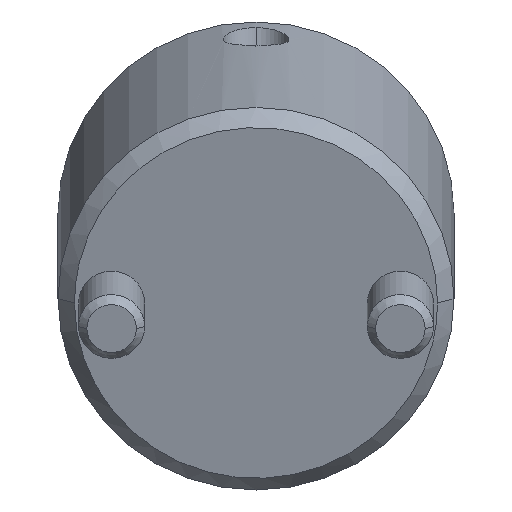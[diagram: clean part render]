
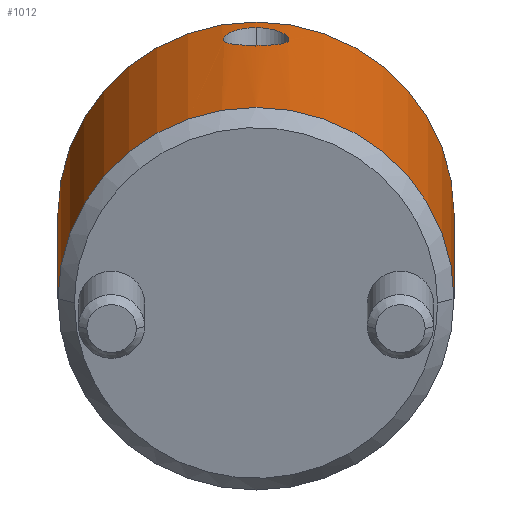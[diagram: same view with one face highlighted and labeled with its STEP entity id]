
A CAD part, front view. The second image highlights one B-rep face of the part: STEP entity #1012.
In plain terms, the highlighted cylindrical face has radius 12 mm (diameter 24 mm), a partial arc.
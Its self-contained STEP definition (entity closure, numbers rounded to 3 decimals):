
#778=CARTESIAN_POINT('Vertex',(0.,12.,1.)) ;
#781=CARTESIAN_POINT('Axis2P3D Location',(0.,0.,1.)) ;
#785=CARTESIAN_POINT('Vertex',(0.,-12.,1.)) ;
#925=CARTESIAN_POINT('Axis2P3D Location',(0.,0.,-1.1)) ;
#930=CARTESIAN_POINT('Line Origine',(0.,12.,-1.1)) ;
#934=CARTESIAN_POINT('Vertex',(0.,12.,21.)) ;
#937=CARTESIAN_POINT('Axis2P3D Location',(0.,0.,21.)) ;
#941=CARTESIAN_POINT('Vertex',(0.,-12.,21.)) ;
#944=CARTESIAN_POINT('Line Origine',(0.,-12.,-1.1)) ;
#956=CARTESIAN_POINT('Control Point',(12.,0.,19.674)) ;
#957=CARTESIAN_POINT('Control Point',(12.,0.342,19.674)) ;
#958=CARTESIAN_POINT('Control Point',(11.988,0.675,19.596)) ;
#959=CARTESIAN_POINT('Control Point',(11.964,0.993,19.44)) ;
#960=CARTESIAN_POINT('Control Point',(11.923,1.377,19.137)) ;
#961=CARTESIAN_POINT('Control Point',(11.885,1.661,18.739)) ;
#962=CARTESIAN_POINT('Control Point',(11.874,1.735,18.615)) ;
#963=CARTESIAN_POINT('Control Point',(11.855,1.861,18.357)) ;
#964=CARTESIAN_POINT('Control Point',(11.842,1.943,18.08)) ;
#965=CARTESIAN_POINT('Control Point',(11.837,1.974,17.937)) ;
#966=CARTESIAN_POINT('Control Point',(11.831,2.01,17.654)) ;
#967=CARTESIAN_POINT('Control Point',(11.832,1.999,17.37)) ;
#968=CARTESIAN_POINT('Control Point',(11.835,1.981,17.229)) ;
#969=CARTESIAN_POINT('Control Point',(11.845,1.924,16.953)) ;
#970=CARTESIAN_POINT('Control Point',(11.861,1.822,16.694)) ;
#971=CARTESIAN_POINT('Control Point',(11.87,1.76,16.57)) ;
#972=CARTESIAN_POINT('Control Point',(11.909,1.492,16.13)) ;
#973=CARTESIAN_POINT('Control Point',(11.956,1.093,15.79)) ;
#974=CARTESIAN_POINT('Control Point',(11.985,0.743,15.618)) ;
#975=CARTESIAN_POINT('Control Point',(12.,0.376,15.533)) ;
#976=CARTESIAN_POINT('Control Point',(12.,0.,15.533)) ;
#977=CARTESIAN_POINT('Vertex',(12.,0.,19.674)) ;
#979=CARTESIAN_POINT('Vertex',(12.,0.,15.533)) ;
#983=CARTESIAN_POINT('Control Point',(12.,0.,15.533)) ;
#984=CARTESIAN_POINT('Control Point',(12.,-0.139,15.533)) ;
#985=CARTESIAN_POINT('Control Point',(11.998,-0.276,15.544)) ;
#986=CARTESIAN_POINT('Control Point',(11.994,-0.413,15.568)) ;
#987=CARTESIAN_POINT('Control Point',(11.982,-0.68,15.638)) ;
#988=CARTESIAN_POINT('Control Point',(11.965,-0.932,15.753)) ;
#989=CARTESIAN_POINT('Control Point',(11.955,-1.053,15.822)) ;
#990=CARTESIAN_POINT('Control Point',(11.933,-1.281,15.979)) ;
#991=CARTESIAN_POINT('Control Point',(11.909,-1.477,16.172)) ;
#992=CARTESIAN_POINT('Control Point',(11.898,-1.566,16.277)) ;
#993=CARTESIAN_POINT('Control Point',(11.864,-1.81,16.618)) ;
#994=CARTESIAN_POINT('Control Point',(11.839,-1.959,17.013)) ;
#995=CARTESIAN_POINT('Control Point',(11.83,-2.013,17.296)) ;
#996=CARTESIAN_POINT('Control Point',(11.829,-2.021,17.726)) ;
#997=CARTESIAN_POINT('Control Point',(11.844,-1.926,18.144)) ;
#998=CARTESIAN_POINT('Control Point',(11.851,-1.883,18.282)) ;
#999=CARTESIAN_POINT('Control Point',(11.869,-1.775,18.549)) ;
#1000=CARTESIAN_POINT('Control Point',(11.89,-1.624,18.795)) ;
#1001=CARTESIAN_POINT('Control Point',(11.902,-1.538,18.912)) ;
#1002=CARTESIAN_POINT('Control Point',(11.938,-1.246,19.247)) ;
#1003=CARTESIAN_POINT('Control Point',(11.972,-0.876,19.494)) ;
#1004=CARTESIAN_POINT('Control Point',(11.991,-0.596,19.613)) ;
#1005=CARTESIAN_POINT('Control Point',(12.,-0.302,19.674)) ;
#1006=CARTESIAN_POINT('Control Point',(12.,0.,19.674)) ;
#782=DIRECTION('Axis2P3D Direction',(0.,0.,1.)) ;
#926=DIRECTION('Axis2P3D Direction',(0.,-0.,1.)) ;
#927=DIRECTION('Axis2P3D XDirection',(0.,-1.,0.)) ;
#931=DIRECTION('Vector Direction',(0.,0.,1.)) ;
#938=DIRECTION('Axis2P3D Direction',(0.,-0.,1.)) ;
#945=DIRECTION('Vector Direction',(0.,0.,1.)) ;
#783=AXIS2_PLACEMENT_3D('Circle Axis2P3D',#781,#782,$) ;
#928=AXIS2_PLACEMENT_3D('Cylinder Axis2P3D',#925,#926,#927) ;
#939=AXIS2_PLACEMENT_3D('Circle Axis2P3D',#937,#938,$) ;
#950=ORIENTED_EDGE('',*,*,#936,.F.) ;
#951=ORIENTED_EDGE('',*,*,#943,.T.) ;
#952=ORIENTED_EDGE('',*,*,#948,.T.) ;
#953=ORIENTED_EDGE('',*,*,#787,.F.) ;
#1009=ORIENTED_EDGE('',*,*,#981,.T.) ;
#1010=ORIENTED_EDGE('',*,*,#1007,.T.) ;
#1011=FACE_BOUND('',#1008,.T.) ;
#932=VECTOR('Line Direction',#931,1.) ;
#946=VECTOR('Line Direction',#945,1.) ;
#1012=ADVANCED_FACE('MANIFOLD_SOLID_BREP #1096',(#954,#1011),#929,.T.) ;
#955=B_SPLINE_CURVE_WITH_KNOTS('',5,(#956,#957,#958,#959,#960,#961,#962,#963,#964,#965,#966,#967,#968,#969,#970,#971,#972,#973,#974,#975,#976),.UNSPECIFIED.,.F.,.U.,(6,3,3,3,3,3,6),(0.,2.418,3.432,4.439,5.429,6.409,9.064),.UNSPECIFIED.) ;
#982=B_SPLINE_CURVE_WITH_KNOTS('',5,(#983,#984,#985,#986,#987,#988,#989,#990,#991,#992,#993,#994,#995,#996,#997,#998,#999,#1000,#1001,#1002,#1003,#1004,#1005,#1006),.UNSPECIFIED.,.F.,.U.,(6,3,3,3,3,3,3,6),(0.,0.981,1.96,2.939,4.919,5.933,6.943,9.071),.UNSPECIFIED.) ;
#784=CIRCLE('generated circle',#783,12.) ;
#940=CIRCLE('generated circle',#939,12.) ;
#929=CYLINDRICAL_SURFACE('generated cylinder',#928,12.) ;
#787=EDGE_CURVE('',#779,#786,#784,.F.) ;
#936=EDGE_CURVE('',#935,#779,#933,.F.) ;
#943=EDGE_CURVE('',#935,#942,#940,.F.) ;
#948=EDGE_CURVE('',#942,#786,#947,.F.) ;
#981=EDGE_CURVE('',#978,#980,#955,.T.) ;
#1007=EDGE_CURVE('',#980,#978,#982,.T.) ;
#949=EDGE_LOOP('',(#950,#951,#952,#953)) ;
#1008=EDGE_LOOP('',(#1009,#1010)) ;
#954=FACE_OUTER_BOUND('',#949,.T.) ;
#933=LINE('Line',#930,#932) ;
#947=LINE('Line',#944,#946) ;
#779=VERTEX_POINT('',#778) ;
#786=VERTEX_POINT('',#785) ;
#935=VERTEX_POINT('',#934) ;
#942=VERTEX_POINT('',#941) ;
#978=VERTEX_POINT('',#977) ;
#980=VERTEX_POINT('',#979) ;
